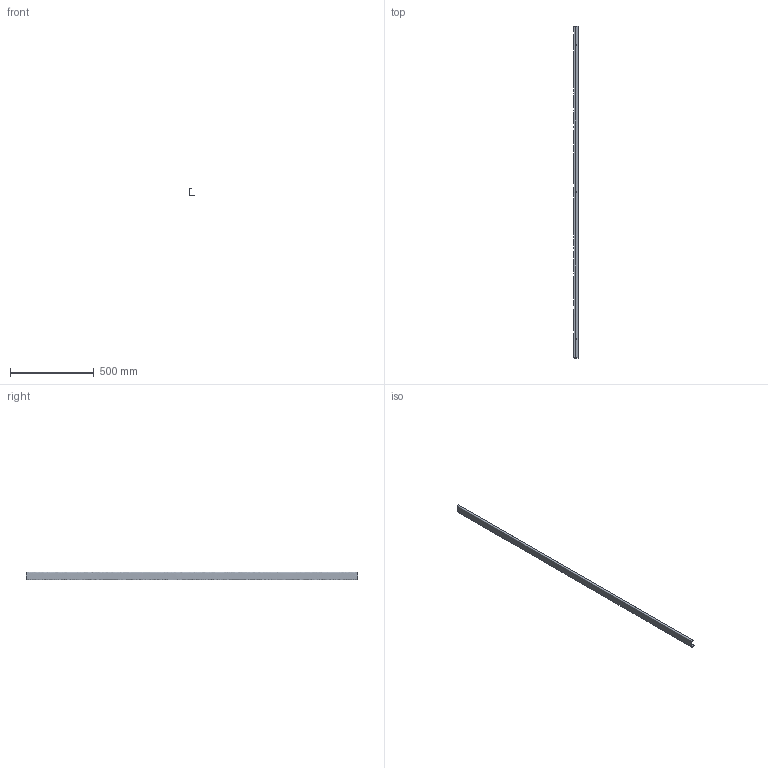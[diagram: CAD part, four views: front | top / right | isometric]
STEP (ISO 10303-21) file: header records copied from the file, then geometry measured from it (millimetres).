
FILE_DESCRIPTION(/* description */ (''),/* implementation_level */ '2;1');
FILE_NAME(/* name */ 'KPZM050',/* time_stamp */ '2012-11-29T22:56:28+01:00',/* author */ (''),/* organization */ (''),/* preprocessor_version */ 'ST-DEVELOPER v10',/* originating_system */ '',/* authorisation */ '');
FILE_SCHEMA (('AUTOMOTIVE_DESIGN_CC2'));
Length unit declared in the file: millimetre
Products named in the file (1): 1
Bounding box: 26.5 x 1985 x 45 mm (x, y, z)
Surface area: 317060.5 mm2 (no closed solid volume)
Topology: 0 solids, 24 shells, 24 faces, 132 edges, 132 vertices
Faces by surface type: plane 22, bspline 2
Entity records: 1590 total; most frequent: CARTESIAN_POINT 656, ORIENTED_EDGE 132, EDGE_CURVE 132, VERTEX_POINT 132, B_SPLINE_CURVE_WITH_KNOTS 124, EDGE_LOOP 30, DIRECTION 26, COLOUR_RGB 24
